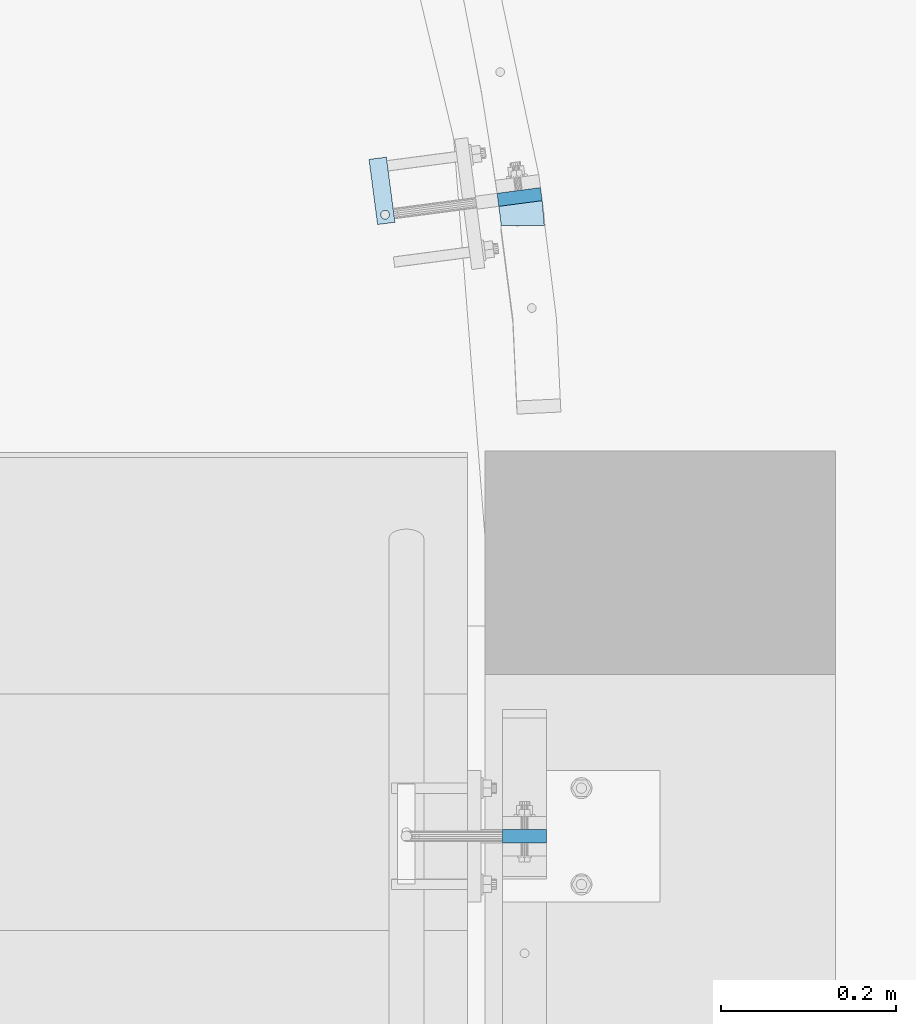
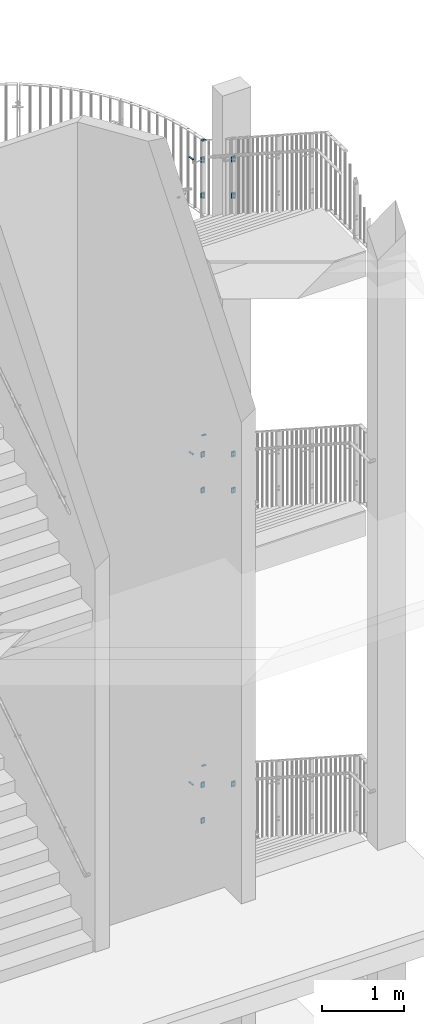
# One storey, part 125 of 296: 17 plates, 34 openings.
"""IFC2X3 building model written with IfcOpenShell, lengths in millimetres."""

from ifc_helpers import new_model, entity, si_unit, converted_unit, point, frame, frame_2d, origin, origin_with_axes, origin_2d_with_axis, place, context, project, spatial, polyline, circle_curve, line_curve, trimmed, segment, composite_curve, circle, outline, extrude, material, layer, layer_set, element, save


model = new_model("IFC2X3")

# Units and contexts
model_context = context("Model", 3, precision=1e-09, world=origin_with_axes())
ifc_project = project(units=[si_unit("LENGTHUNIT", "METRE", prefix="MILLI"), si_unit("AREAUNIT", "SQUARE_METRE"), si_unit("VOLUMEUNIT", "CUBIC_METRE"), converted_unit("PLANEANGLEUNIT", "DEGREE", entity("IfcPlaneAngleMeasure", 0.01745329), si_unit("PLANEANGLEUNIT", "RADIAN"), dimensions=[0, 0, 0, 0, 0, 0, 0])], contexts=[model_context])

# Site, building, storey
site_placement = place(None, origin_with_axes())
site = spatial("IfcSite", under=ifc_project, at=site_placement, Name="TZD-S?d | Treppenhausgel?nder", CompositionType="ELEMENT")
building_placement = place(site_placement, origin_with_axes())
building = spatial("IfcBuilding", under=site, at=building_placement, Name="Struktur 1", CompositionType="ELEMENT")
storey_placement = place(building_placement, origin_with_axes())
storey = spatial("IfcBuildingStorey", under=building, at=storey_placement, Name="Default Storey", CompositionType="ELEMENT", Elevation=0.0)

# Plate, openings
ifc_material = material(Name="S235JR")
ifc_layer_1 = layer(ifc_material, 15.0)
ifc_layer_set_1 = layer_set([ifc_layer_1], Name="S235JR")
plate_1_placement = place(None, frame((5888.441189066, 297.709151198, 11990.001), z_axis=(-0.130526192, 0.991444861, 0.0), x_axis=(-0.991444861, -0.130526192, 0.0)))
plate_1 = element("IfcPlate", 1, at=plate_1_placement, inside=storey, material=ifc_layer_set_1, Name="Girder", ObjectType="Girder", context=model_context, shape_type="SweptSolid", body=[
    extrude(outline(polyline([(-25.0, -40.0), (25.0, -40.0), (25.0, 40.0), (-25.0, 40.0), (-25.0, -40.0)])), origin_with_axes(), (0.0, 0.0, -1.0), 15.0),
])
opening_1_placement = place(plate_1_placement, frame((-5.001, 24.999999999, 0.5), z_axis=(0.0, 0.0, 1.0), x_axis=(1.0, 0.0, 0.0)))
element("IfcOpeningElement", 2, at=opening_1_placement, cuts=plate_1, ObjectType="Opening", context=model_context, shape_type="SweptSolid", body=[
    extrude(circle(Radius=5.001, at=frame_2d((5.001, 0.0), x_axis=(1.0, 0.0))), origin(), (0.0, 0.0, -1.0), 16.0),
])
opening_2_placement = place(plate_1_placement, frame((-5.001, -25.000000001, 0.5), z_axis=(0.0, 0.0, 1.0), x_axis=(1.0, 0.0, 0.0)))
element("IfcOpeningElement", 3, at=opening_2_placement, cuts=plate_1, ObjectType="Opening", context=model_context, shape_type="SweptSolid", body=[
    extrude(circle(Radius=5.001, at=frame_2d((5.001, 0.0), x_axis=(1.0, 0.0))), origin(), (0.0, 0.0, -1.0), 16.0),
])

plate_2_placement = place(None, frame((5888.441189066, 297.709151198, 12520.001), z_axis=(-0.130526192, 0.991444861, 0.0), x_axis=(-0.991444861, -0.130526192, 0.0)))
plate_2 = element("IfcPlate", 4, at=plate_2_placement, inside=storey, material=ifc_layer_set_1, Name="Girder", ObjectType="Girder", context=model_context, shape_type="SweptSolid", body=[
    extrude(outline(polyline([(-25.0, -40.0), (25.0, -40.0), (25.0, 40.0), (-25.0, 40.0), (-25.0, -40.0)])), origin_with_axes(), (0.0, 0.0, -1.0), 15.0),
])
opening_3_placement = place(plate_2_placement, frame((-5.001, 24.999999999, 0.5), z_axis=(0.0, 0.0, 1.0), x_axis=(1.0, 0.0, 0.0)))
element("IfcOpeningElement", 5, at=opening_3_placement, cuts=plate_2, ObjectType="Opening", context=model_context, shape_type="SweptSolid", body=[
    extrude(circle(Radius=5.001, at=frame_2d((5.001, 0.0), x_axis=(1.0, 0.0))), origin(), (0.0, 0.0, -1.0), 16.0),
])
opening_4_placement = place(plate_2_placement, frame((-5.001, -25.000000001, 0.5), z_axis=(0.0, 0.0, 1.0), x_axis=(1.0, 0.0, 0.0)))
element("IfcOpeningElement", 6, at=opening_4_placement, cuts=plate_2, ObjectType="Opening", context=model_context, shape_type="SweptSolid", body=[
    extrude(circle(Radius=5.001, at=frame_2d((5.001, 0.0), x_axis=(1.0, 0.0))), origin(), (0.0, 0.0, -1.0), 16.0),
])

# Plate, opening
ifc_layer_2 = layer(ifc_material, 10.0)
ifc_layer_set_2 = layer_set([ifc_layer_2], Name="S235JR")
plate_3_placement = place(None, frame((5732.156711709, 297.306488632, 12585.0), z_axis=(0.0, 0.0, -1.0), x_axis=(0.130526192, -0.991444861, 0.0)))
plate_3 = element("IfcPlate", 7, at=plate_3_placement, inside=storey, material=ifc_layer_set_2, Name="Girder", ObjectType="Girder", context=model_context, shape_type="SweptSolid", body=[
    extrude(outline(polyline([(-37.5, -10.0), (37.5, -10.0), (37.5, 10.0), (-37.5, 10.0), (-37.5, -10.0)])), origin_with_axes(), (0.0, 0.0, -1.0), 10.0),
])
opening_5_placement = place(plate_3_placement, frame((27.5, 0.0, 0.5), z_axis=(0.0, 0.0, -1.0), x_axis=(0.130526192, -0.991444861, 0.0)))
element("IfcOpeningElement", 8, at=opening_5_placement, cuts=plate_3, ObjectType="Opening", context=model_context, shape_type="SweptSolid", body=[
    extrude(circle(Radius=5.001, at=origin_2d_with_axis()), origin(), (0.0, 0.0, 1.0), 11.0),
])

# Plate, openings
plate_4_placement = place(None, frame((5894.999, -432.5, 12429.999), z_axis=(0.0, 1.0, 0.0), x_axis=(-1.0, 0.0, 0.0)))
plate_4 = element("IfcPlate", 9, at=plate_4_placement, inside=storey, material=ifc_layer_set_1, Name="Girder", ObjectType="Girder", context=model_context, shape_type="SweptSolid", body=[
    extrude(outline(polyline([(-25.0, -40.0), (25.0, -40.0), (25.0, 40.0), (-25.0, 40.0), (-25.0, -40.0)])), origin_with_axes(), (0.0, 0.0, -1.0), 15.0),
])
opening_6_placement = place(plate_4_placement, frame((-5.001, 24.999999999, 0.5), z_axis=(0.0, 0.0, 1.0), x_axis=(1.0, 0.0, 0.0)))
element("IfcOpeningElement", 10, at=opening_6_placement, cuts=plate_4, ObjectType="Opening", context=model_context, shape_type="SweptSolid", body=[
    extrude(circle(Radius=5.001, at=frame_2d((5.001, 0.0), x_axis=(1.0, 0.0))), origin(), (0.0, 0.0, -1.0), 16.0),
])
opening_7_placement = place(plate_4_placement, frame((-5.001, -25.000000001, 0.5), z_axis=(0.0, 0.0, 1.0), x_axis=(1.0, 0.0, 0.0)))
element("IfcOpeningElement", 11, at=opening_7_placement, cuts=plate_4, ObjectType="Opening", context=model_context, shape_type="SweptSolid", body=[
    extrude(circle(Radius=5.001, at=frame_2d((5.001, 0.0), x_axis=(1.0, 0.0))), origin(), (0.0, 0.0, -1.0), 16.0),
])

plate_5_placement = place(None, frame((5894.999, -432.5, 12970.890059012), z_axis=(0.0, 1.0, 0.0), x_axis=(-1.0, 0.0, 0.0)))
plate_5 = element("IfcPlate", 12, at=plate_5_placement, inside=storey, material=ifc_layer_set_1, Name="Girder", ObjectType="Girder", context=model_context, shape_type="SweptSolid", body=[
    extrude(outline(polyline([(-25.0, -40.0), (25.0, -40.0), (25.0, 40.0), (-25.0, 40.0), (-25.0, -40.0)])), origin_with_axes(), (0.0, 0.0, -1.0), 15.0),
])
opening_8_placement = place(plate_5_placement, frame((-5.001, 24.999999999, 0.5), z_axis=(0.0, 0.0, 1.0), x_axis=(1.0, 0.0, 0.0)))
element("IfcOpeningElement", 13, at=opening_8_placement, cuts=plate_5, ObjectType="Opening", context=model_context, shape_type="SweptSolid", body=[
    extrude(circle(Radius=5.001, at=frame_2d((5.001, 0.0), x_axis=(1.0, 0.0))), origin(), (0.0, 0.0, -1.0), 16.0),
])
opening_9_placement = place(plate_5_placement, frame((-5.001, -25.000000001, 0.5), z_axis=(0.0, 0.0, 1.0), x_axis=(1.0, 0.0, 0.0)))
element("IfcOpeningElement", 14, at=opening_9_placement, cuts=plate_5, ObjectType="Opening", context=model_context, shape_type="SweptSolid", body=[
    extrude(circle(Radius=5.001, at=frame_2d((5.001, 0.0), x_axis=(1.0, 0.0))), origin(), (0.0, 0.0, -1.0), 16.0),
])

plate_6_placement = place(None, frame((5894.999, -432.5, 8054.999), z_axis=(0.0, 1.0, 0.0), x_axis=(-1.0, 0.0, 0.0)))
plate_6 = element("IfcPlate", 15, at=plate_6_placement, inside=storey, material=ifc_layer_set_1, Name="Girder", ObjectType="Girder", context=model_context, shape_type="SweptSolid", body=[
    extrude(outline(polyline([(-25.0, -40.0), (25.0, -40.0), (25.0, 40.0), (-25.0, 40.0), (-25.0, -40.0)])), origin_with_axes(), (0.0, 0.0, -1.0), 15.0),
])
opening_10_placement = place(plate_6_placement, frame((-5.001, 24.999999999, 0.5), z_axis=(0.0, 0.0, 1.0), x_axis=(1.0, 0.0, 0.0)))
element("IfcOpeningElement", 16, at=opening_10_placement, cuts=plate_6, ObjectType="Opening", context=model_context, shape_type="SweptSolid", body=[
    extrude(circle(Radius=5.001, at=frame_2d((5.001, 0.0), x_axis=(1.0, 0.0))), origin(), (0.0, 0.0, -1.0), 16.0),
])
opening_11_placement = place(plate_6_placement, frame((-5.001, -25.000000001, 0.5), z_axis=(0.0, 0.0, 1.0), x_axis=(1.0, 0.0, 0.0)))
element("IfcOpeningElement", 17, at=opening_11_placement, cuts=plate_6, ObjectType="Opening", context=model_context, shape_type="SweptSolid", body=[
    extrude(circle(Radius=5.001, at=frame_2d((5.001, 0.0), x_axis=(1.0, 0.0))), origin(), (0.0, 0.0, -1.0), 16.0),
])

plate_7_placement = place(None, frame((5894.999, -432.5, 8592.522152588), z_axis=(0.0, 1.0, 0.0), x_axis=(-1.0, 0.0, 0.0)))
plate_7 = element("IfcPlate", 18, at=plate_7_placement, inside=storey, material=ifc_layer_set_1, Name="Girder", ObjectType="Girder", context=model_context, shape_type="SweptSolid", body=[
    extrude(outline(polyline([(-25.0, -40.0), (25.0, -40.0), (25.0, 40.0), (-25.0, 40.0), (-25.0, -40.0)])), origin_with_axes(), (0.0, 0.0, -1.0), 15.0),
])
opening_12_placement = place(plate_7_placement, frame((-5.001, 24.999999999, 0.5), z_axis=(0.0, 0.0, 1.0), x_axis=(1.0, 0.0, 0.0)))
element("IfcOpeningElement", 19, at=opening_12_placement, cuts=plate_7, ObjectType="Opening", context=model_context, shape_type="SweptSolid", body=[
    extrude(circle(Radius=5.001, at=frame_2d((5.001, 0.0), x_axis=(1.0, 0.0))), origin(), (0.0, 0.0, -1.0), 16.0),
])
opening_13_placement = place(plate_7_placement, frame((-5.001, -25.000000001, 0.5), z_axis=(0.0, 0.0, 1.0), x_axis=(1.0, 0.0, 0.0)))
element("IfcOpeningElement", 20, at=opening_13_placement, cuts=plate_7, ObjectType="Opening", context=model_context, shape_type="SweptSolid", body=[
    extrude(circle(Radius=5.001, at=frame_2d((5.001, 0.0), x_axis=(1.0, 0.0))), origin(), (0.0, 0.0, -1.0), 16.0),
])

plate_8_placement = place(None, frame((5894.999, -432.5, 3699.176393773), z_axis=(0.0, 1.0, 0.0), x_axis=(-1.0, 0.0, 0.0)))
plate_8 = element("IfcPlate", 21, at=plate_8_placement, inside=storey, material=ifc_layer_set_1, Name="Girder", ObjectType="Girder", context=model_context, shape_type="SweptSolid", body=[
    extrude(outline(polyline([(-25.0, -40.0), (25.0, -40.0), (25.0, 40.0), (-25.0, 40.0), (-25.0, -40.0)])), origin_with_axes(), (0.0, 0.0, -1.0), 15.0),
])
opening_14_placement = place(plate_8_placement, frame((-5.001, 24.999999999, 0.5), z_axis=(0.0, 0.0, 1.0), x_axis=(1.0, 0.0, 0.0)))
element("IfcOpeningElement", 22, at=opening_14_placement, cuts=plate_8, ObjectType="Opening", context=model_context, shape_type="SweptSolid", body=[
    extrude(circle(Radius=5.001, at=frame_2d((5.001, 0.0), x_axis=(1.0, 0.0))), origin(), (0.0, 0.0, -1.0), 16.0),
])
opening_15_placement = place(plate_8_placement, frame((-5.001, -25.000000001, 0.5), z_axis=(0.0, 0.0, 1.0), x_axis=(1.0, 0.0, 0.0)))
element("IfcOpeningElement", 23, at=opening_15_placement, cuts=plate_8, ObjectType="Opening", context=model_context, shape_type="SweptSolid", body=[
    extrude(circle(Radius=5.001, at=frame_2d((5.001, 0.0), x_axis=(1.0, 0.0))), origin(), (0.0, 0.0, -1.0), 16.0),
])

plate_9_placement = place(None, frame((5915.175954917, 286.099415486, 12825.0), z_axis=(0.0, 0.0, 1.0), x_axis=(-0.991444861, -0.130526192, 0.0)))
plate_9 = element("IfcPlate", 24, at=plate_9_placement, inside=storey, material=ifc_layer_set_2, Name="Girder", ObjectType="Girder", context=model_context, shape_type="SweptSolid", body=[
    extrude(outline(polyline([(0.0, 0.0), (50.000157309, 0.0), (50.301720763, 119.217704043), (60.173956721, 238.026335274), (10.345681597, 242.166745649), (0.301721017, 121.291473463), (0.0, 0.0)])), origin_with_axes(), (0.0, 0.0, -1.0), 10.0),
])
opening_16_placement = place(plate_9_placement, frame((50.301720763, 119.217704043, 0.0), z_axis=(0.0, 0.0, -1.0), x_axis=(0.082808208, 0.996565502, 0.0)))
element("IfcOpeningElement", 25, at=opening_16_placement, cuts=plate_9, ObjectType="Opening", context=model_context, shape_type="SweptSolid", body=[
    extrude(outline(composite_curve([segment(trimmed(line_curve((0.0, 0.0), (1.0, 0.0), 119.218085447), [point((0.0, 0.0))], [point((119.218085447, 0.0))], True, "CARTESIAN"), True, "CONTINUOUS"), segment(trimmed(circle_curve(frame_2d((119.218085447, 2965.0), x_axis=(-1.0, 0.0)), 2965.0), [point((119.218085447, 0.0))], [point((-118.833223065, 9.571676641))], False, "CARTESIAN"), True, "CONTINUOUS"), segment(trimmed(line_curve((-118.833223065, 9.571676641), (0.996771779, -0.080287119), 119.218085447), [point((-118.833223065, 9.571676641))], [point((0.0, 0.0))], True, "CARTESIAN"), True, "CONTINUOUS")], self_intersect=False)), origin(), (0.0, 0.0, -1.0), 10.0),
])
opening_17_placement = place(plate_9_placement, frame((0.301721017, 121.291473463, 0.01), z_axis=(0.0, 0.0, 1.0), x_axis=(-0.002487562, -0.999996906, 0.0)))
element("IfcOpeningElement", 26, at=opening_17_placement, cuts=plate_9, ObjectType="Opening", context=model_context, shape_type="SweptSolid", body=[
    extrude(outline(composite_curve([segment(trimmed(line_curve((0.0, 0.0), (1.0, 0.0), 121.291848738), [point((0.0, 0.0))], [point((121.291848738, 0.0))], True, "CARTESIAN"), True, "CONTINUOUS"), segment(trimmed(circle_curve(frame_2d((121.291848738, 3015.0), x_axis=(-1.0, 0.0)), 3015.0), [point((121.291848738, 0.0))], [point((-120.899883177, 9.743244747))], False, "CARTESIAN"), True, "CONTINUOUS"), segment(trimmed(line_curve((-120.899883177, 9.743244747), (0.99676841, -0.080328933), 121.291848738), [point((-120.899883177, 9.743244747))], [point((0.0, 0.0))], True, "CARTESIAN"), True, "CONTINUOUS")], self_intersect=False)), origin(), (0.0, 0.0, -1.0), 10.02),
])
opening_18_placement = place(plate_9_placement, frame((16.853311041, 292.363228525, -32.212259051), z_axis=(-0.991444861, 0.130526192, 0.0), x_axis=(-0.130526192, -0.991444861, 0.0)))
element("IfcOpeningElement", 27, at=opening_18_placement, cuts=plate_9, ObjectType="Opening", context=model_context, shape_type="SweptSolid", body=[
    extrude(outline(polyline([(0.0, 0.0), (263.797340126, 0.0), (263.797340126, 62.53533382), (0.0, 62.53533382), (0.0, 0.0)])), origin(), (0.0, 0.0, -1.0), 71.124329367),
])

plate_10_placement = place(None, frame((5915.175954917, 286.099415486, 3550.0), z_axis=(0.0, 0.0, 1.0), x_axis=(-0.991444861, -0.130526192, 0.0)))
plate_10 = element("IfcPlate", 28, at=plate_10_placement, inside=storey, material=ifc_layer_set_2, Name="Girder", ObjectType="Girder", context=model_context, shape_type="SweptSolid", body=[
    extrude(outline(polyline([(0.0, 0.0), (50.000157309, 0.0), (50.301720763, 119.217704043), (60.173956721, 238.026335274), (10.345681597, 242.166745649), (0.301721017, 121.291473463), (0.0, 0.0)])), origin_with_axes(), (0.0, 0.0, -1.0), 10.0),
])
opening_19_placement = place(plate_10_placement, frame((50.301720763, 119.217704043, 0.0), z_axis=(0.0, 0.0, -1.0), x_axis=(0.082808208, 0.996565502, 0.0)))
element("IfcOpeningElement", 29, at=opening_19_placement, cuts=plate_10, ObjectType="Opening", context=model_context, shape_type="SweptSolid", body=[
    extrude(outline(composite_curve([segment(trimmed(line_curve((0.0, 0.0), (1.0, 0.0), 119.218085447), [point((0.0, 0.0))], [point((119.218085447, 0.0))], True, "CARTESIAN"), True, "CONTINUOUS"), segment(trimmed(circle_curve(frame_2d((119.218085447, 2965.0), x_axis=(-1.0, 0.0)), 2965.0), [point((119.218085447, 0.0))], [point((-118.833223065, 9.571676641))], False, "CARTESIAN"), True, "CONTINUOUS"), segment(trimmed(line_curve((-118.833223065, 9.571676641), (0.996771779, -0.080287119), 119.218085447), [point((-118.833223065, 9.571676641))], [point((0.0, 0.0))], True, "CARTESIAN"), True, "CONTINUOUS")], self_intersect=False)), origin(), (0.0, 0.0, -1.0), 10.0),
])
opening_20_placement = place(plate_10_placement, frame((0.301721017, 121.291473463, 0.01), z_axis=(0.0, 0.0, 1.0), x_axis=(-0.002487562, -0.999996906, 0.0)))
element("IfcOpeningElement", 30, at=opening_20_placement, cuts=plate_10, ObjectType="Opening", context=model_context, shape_type="SweptSolid", body=[
    extrude(outline(composite_curve([segment(trimmed(line_curve((0.0, 0.0), (1.0, 0.0), 121.291848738), [point((0.0, 0.0))], [point((121.291848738, 0.0))], True, "CARTESIAN"), True, "CONTINUOUS"), segment(trimmed(circle_curve(frame_2d((121.291848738, 3015.0), x_axis=(-1.0, 0.0)), 3015.0), [point((121.291848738, 0.0))], [point((-120.899883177, 9.743244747))], False, "CARTESIAN"), True, "CONTINUOUS"), segment(trimmed(line_curve((-120.899883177, 9.743244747), (0.99676841, -0.080328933), 121.291848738), [point((-120.899883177, 9.743244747))], [point((0.0, 0.0))], True, "CARTESIAN"), True, "CONTINUOUS")], self_intersect=False)), origin(), (0.0, 0.0, -1.0), 10.02),
])
opening_21_placement = place(plate_10_placement, frame((16.853311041, 292.363228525, -32.212259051), z_axis=(-0.991444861, 0.130526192, 0.0), x_axis=(-0.130526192, -0.991444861, 0.0)))
element("IfcOpeningElement", 31, at=opening_21_placement, cuts=plate_10, ObjectType="Opening", context=model_context, shape_type="SweptSolid", body=[
    extrude(outline(polyline([(0.0, 0.0), (263.797340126, 0.0), (263.797340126, 62.53533382), (0.0, 62.53533382), (0.0, 0.0)])), origin(), (0.0, 0.0, -1.0), 71.124329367),
])

plate_11_placement = place(None, frame((5915.175954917, 286.099415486, 8450.0), z_axis=(0.0, 0.0, 1.0), x_axis=(-0.991444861, -0.130526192, 0.0)))
plate_11 = element("IfcPlate", 32, at=plate_11_placement, inside=storey, material=ifc_layer_set_2, Name="Girder", ObjectType="Girder", context=model_context, shape_type="SweptSolid", body=[
    extrude(outline(polyline([(0.0, 0.0), (50.000157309, 0.0), (50.301720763, 119.217704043), (60.173956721, 238.026335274), (10.345681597, 242.166745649), (0.301721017, 121.291473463), (0.0, 0.0)])), origin_with_axes(), (0.0, 0.0, -1.0), 10.0),
])
opening_22_placement = place(plate_11_placement, frame((50.301720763, 119.217704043, 0.0), z_axis=(0.0, 0.0, -1.0), x_axis=(0.082808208, 0.996565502, 0.0)))
element("IfcOpeningElement", 33, at=opening_22_placement, cuts=plate_11, ObjectType="Opening", context=model_context, shape_type="SweptSolid", body=[
    extrude(outline(composite_curve([segment(trimmed(line_curve((0.0, 0.0), (1.0, 0.0), 119.218085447), [point((0.0, 0.0))], [point((119.218085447, 0.0))], True, "CARTESIAN"), True, "CONTINUOUS"), segment(trimmed(circle_curve(frame_2d((119.218085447, 2965.0), x_axis=(-1.0, 0.0)), 2965.0), [point((119.218085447, 0.0))], [point((-118.833223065, 9.571676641))], False, "CARTESIAN"), True, "CONTINUOUS"), segment(trimmed(line_curve((-118.833223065, 9.571676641), (0.996771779, -0.080287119), 119.218085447), [point((-118.833223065, 9.571676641))], [point((0.0, 0.0))], True, "CARTESIAN"), True, "CONTINUOUS")], self_intersect=False)), origin(), (0.0, 0.0, -1.0), 10.0),
])
opening_23_placement = place(plate_11_placement, frame((0.301721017, 121.291473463, 0.01), z_axis=(0.0, 0.0, 1.0), x_axis=(-0.002487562, -0.999996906, 0.0)))
element("IfcOpeningElement", 34, at=opening_23_placement, cuts=plate_11, ObjectType="Opening", context=model_context, shape_type="SweptSolid", body=[
    extrude(outline(composite_curve([segment(trimmed(line_curve((0.0, 0.0), (1.0, 0.0), 121.291848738), [point((0.0, 0.0))], [point((121.291848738, 0.0))], True, "CARTESIAN"), True, "CONTINUOUS"), segment(trimmed(circle_curve(frame_2d((121.291848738, 3015.0), x_axis=(-1.0, 0.0)), 3015.0), [point((121.291848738, 0.0))], [point((-120.899883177, 9.743244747))], False, "CARTESIAN"), True, "CONTINUOUS"), segment(trimmed(line_curve((-120.899883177, 9.743244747), (0.99676841, -0.080328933), 121.291848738), [point((-120.899883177, 9.743244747))], [point((0.0, 0.0))], True, "CARTESIAN"), True, "CONTINUOUS")], self_intersect=False)), origin(), (0.0, 0.0, -1.0), 10.02),
])
opening_24_placement = place(plate_11_placement, frame((16.853311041, 292.363228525, -32.212259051), z_axis=(-0.991444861, 0.130526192, 0.0), x_axis=(-0.130526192, -0.991444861, 0.0)))
element("IfcOpeningElement", 35, at=opening_24_placement, cuts=plate_11, ObjectType="Opening", context=model_context, shape_type="SweptSolid", body=[
    extrude(outline(polyline([(0.0, 0.0), (263.797340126, 0.0), (263.797340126, 62.53533382), (0.0, 62.53533382), (0.0, 0.0)])), origin(), (0.0, 0.0, -1.0), 71.124329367),
])

# Plate, opening
plate_12_placement = place(None, frame((5732.156711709, 297.306488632, 8210.0), z_axis=(0.0, 0.0, -1.0), x_axis=(0.130526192, -0.991444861, 0.0)))
plate_12 = element("IfcPlate", 36, at=plate_12_placement, inside=storey, material=ifc_layer_set_2, Name="Girder", ObjectType="Girder", context=model_context, shape_type="SweptSolid", body=[
    extrude(outline(polyline([(-37.5, -10.0), (37.5, -10.0), (37.5, 10.0), (-37.5, 10.0), (-37.5, -10.0)])), origin_with_axes(), (0.0, 0.0, -1.0), 10.0),
])
opening_25_placement = place(plate_12_placement, frame((27.5, 0.0, 0.5), z_axis=(0.0, 0.0, -1.0), x_axis=(0.130526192, -0.991444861, 0.0)))
element("IfcOpeningElement", 37, at=opening_25_placement, cuts=plate_12, ObjectType="Opening", context=model_context, shape_type="SweptSolid", body=[
    extrude(circle(Radius=5.001, at=origin_2d_with_axis()), origin(), (0.0, 0.0, 1.0), 11.0),
])

# Plate, openings
plate_13_placement = place(None, frame((5888.441189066, 297.709151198, 8145.001), z_axis=(-0.130526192, 0.991444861, 0.0), x_axis=(-0.991444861, -0.130526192, 0.0)))
plate_13 = element("IfcPlate", 38, at=plate_13_placement, inside=storey, material=ifc_layer_set_1, Name="Girder", ObjectType="Girder", context=model_context, shape_type="SweptSolid", body=[
    extrude(outline(polyline([(-25.0, -40.0), (25.0, -40.0), (25.0, 40.0), (-25.0, 40.0), (-25.0, -40.0)])), origin_with_axes(), (0.0, 0.0, -1.0), 15.0),
])
opening_26_placement = place(plate_13_placement, frame((-5.001, 24.999999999, 0.5), z_axis=(0.0, 0.0, 1.0), x_axis=(1.0, 0.0, 0.0)))
element("IfcOpeningElement", 39, at=opening_26_placement, cuts=plate_13, ObjectType="Opening", context=model_context, shape_type="SweptSolid", body=[
    extrude(circle(Radius=5.001, at=frame_2d((5.001, 0.0), x_axis=(1.0, 0.0))), origin(), (0.0, 0.0, -1.0), 16.0),
])
opening_27_placement = place(plate_13_placement, frame((-5.001, -25.000000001, 0.5), z_axis=(0.0, 0.0, 1.0), x_axis=(1.0, 0.0, 0.0)))
element("IfcOpeningElement", 40, at=opening_27_placement, cuts=plate_13, ObjectType="Opening", context=model_context, shape_type="SweptSolid", body=[
    extrude(circle(Radius=5.001, at=frame_2d((5.001, 0.0), x_axis=(1.0, 0.0))), origin(), (0.0, 0.0, -1.0), 16.0),
])

plate_14_placement = place(None, frame((5888.441189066, 297.709151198, 7615.001), z_axis=(-0.130526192, 0.991444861, 0.0), x_axis=(-0.991444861, -0.130526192, 0.0)))
plate_14 = element("IfcPlate", 41, at=plate_14_placement, inside=storey, material=ifc_layer_set_1, Name="Girder", ObjectType="Girder", context=model_context, shape_type="SweptSolid", body=[
    extrude(outline(polyline([(-25.0, -40.0), (25.0, -40.0), (25.0, 40.0), (-25.0, 40.0), (-25.0, -40.0)])), origin_with_axes(), (0.0, 0.0, -1.0), 15.0),
])
opening_28_placement = place(plate_14_placement, frame((-5.001, 24.999999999, 0.5), z_axis=(0.0, 0.0, 1.0), x_axis=(1.0, 0.0, 0.0)))
element("IfcOpeningElement", 42, at=opening_28_placement, cuts=plate_14, ObjectType="Opening", context=model_context, shape_type="SweptSolid", body=[
    extrude(circle(Radius=5.001, at=frame_2d((5.001, 0.0), x_axis=(1.0, 0.0))), origin(), (0.0, 0.0, -1.0), 16.0),
])
opening_29_placement = place(plate_14_placement, frame((-5.001, -25.000000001, 0.5), z_axis=(0.0, 0.0, 1.0), x_axis=(1.0, 0.0, 0.0)))
element("IfcOpeningElement", 43, at=opening_29_placement, cuts=plate_14, ObjectType="Opening", context=model_context, shape_type="SweptSolid", body=[
    extrude(circle(Radius=5.001, at=frame_2d((5.001, 0.0), x_axis=(1.0, 0.0))), origin(), (0.0, 0.0, -1.0), 16.0),
])

# Plate, opening
plate_15_placement = place(None, frame((5732.156711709, 297.306488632, 3310.0), z_axis=(0.0, 0.0, -1.0), x_axis=(0.130526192, -0.991444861, 0.0)))
plate_15 = element("IfcPlate", 44, at=plate_15_placement, inside=storey, material=ifc_layer_set_2, Name="Girder", ObjectType="Girder", context=model_context, shape_type="SweptSolid", body=[
    extrude(outline(polyline([(-37.5, -10.0), (37.5, -10.0), (37.5, 10.0), (-37.5, 10.0), (-37.5, -10.0)])), origin_with_axes(), (0.0, 0.0, -1.0), 10.0),
])
opening_30_placement = place(plate_15_placement, frame((27.5, 0.0, 0.5), z_axis=(0.0, 0.0, -1.0), x_axis=(0.130526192, -0.991444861, 0.0)))
element("IfcOpeningElement", 45, at=opening_30_placement, cuts=plate_15, ObjectType="Opening", context=model_context, shape_type="SweptSolid", body=[
    extrude(circle(Radius=5.001, at=origin_2d_with_axis()), origin(), (0.0, 0.0, 1.0), 11.0),
])

# Plate, openings
plate_16_placement = place(None, frame((5888.441189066, 297.709151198, 3245.001), z_axis=(-0.130526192, 0.991444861, 0.0), x_axis=(-0.991444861, -0.130526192, 0.0)))
plate_16 = element("IfcPlate", 46, at=plate_16_placement, inside=storey, material=ifc_layer_set_1, Name="Girder", ObjectType="Girder", context=model_context, shape_type="SweptSolid", body=[
    extrude(outline(polyline([(-25.0, -40.0), (25.0, -40.0), (25.0, 40.0), (-25.0, 40.0), (-25.0, -40.0)])), origin_with_axes(), (0.0, 0.0, -1.0), 15.0),
])
opening_31_placement = place(plate_16_placement, frame((-5.001, 24.999999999, 0.5), z_axis=(0.0, 0.0, 1.0), x_axis=(1.0, 0.0, 0.0)))
element("IfcOpeningElement", 47, at=opening_31_placement, cuts=plate_16, ObjectType="Opening", context=model_context, shape_type="SweptSolid", body=[
    extrude(circle(Radius=5.001, at=frame_2d((5.001, 0.0), x_axis=(1.0, 0.0))), origin(), (0.0, 0.0, -1.0), 16.0),
])
opening_32_placement = place(plate_16_placement, frame((-5.001, -25.000000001, 0.5), z_axis=(0.0, 0.0, 1.0), x_axis=(1.0, 0.0, 0.0)))
element("IfcOpeningElement", 48, at=opening_32_placement, cuts=plate_16, ObjectType="Opening", context=model_context, shape_type="SweptSolid", body=[
    extrude(circle(Radius=5.001, at=frame_2d((5.001, 0.0), x_axis=(1.0, 0.0))), origin(), (0.0, 0.0, -1.0), 16.0),
])

plate_17_placement = place(None, frame((5888.441189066, 297.709151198, 2715.001), z_axis=(-0.130526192, 0.991444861, 0.0), x_axis=(-0.991444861, -0.130526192, 0.0)))
plate_17 = element("IfcPlate", 49, at=plate_17_placement, inside=storey, material=ifc_layer_set_1, Name="Girder", ObjectType="Girder", context=model_context, shape_type="SweptSolid", body=[
    extrude(outline(polyline([(-25.0, -40.0), (25.0, -40.0), (25.0, 40.0), (-25.0, 40.0), (-25.0, -40.0)])), origin_with_axes(), (0.0, 0.0, -1.0), 15.0),
])
opening_33_placement = place(plate_17_placement, frame((-5.001, 24.999999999, 0.5), z_axis=(0.0, 0.0, 1.0), x_axis=(1.0, 0.0, 0.0)))
element("IfcOpeningElement", 50, at=opening_33_placement, cuts=plate_17, ObjectType="Opening", context=model_context, shape_type="SweptSolid", body=[
    extrude(circle(Radius=5.001, at=frame_2d((5.001, 0.0), x_axis=(1.0, 0.0))), origin(), (0.0, 0.0, -1.0), 16.0),
])
opening_34_placement = place(plate_17_placement, frame((-5.001, -25.000000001, 0.5), z_axis=(0.0, 0.0, 1.0), x_axis=(1.0, 0.0, 0.0)))
element("IfcOpeningElement", 51, at=opening_34_placement, cuts=plate_17, ObjectType="Opening", context=model_context, shape_type="SweptSolid", body=[
    extrude(circle(Radius=5.001, at=frame_2d((5.001, 0.0), x_axis=(1.0, 0.0))), origin(), (0.0, 0.0, -1.0), 16.0),
])

save(model, "model.ifc")
